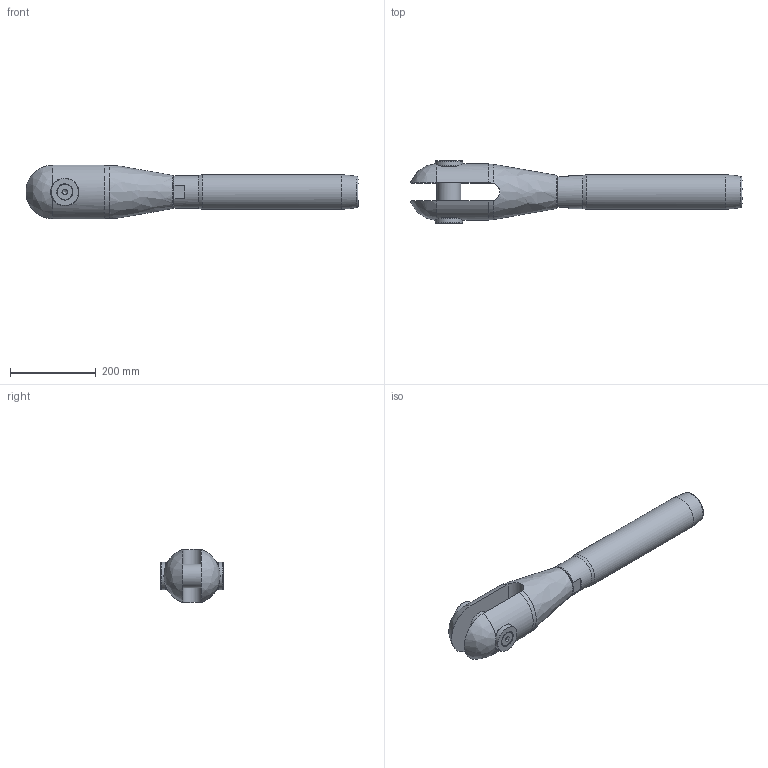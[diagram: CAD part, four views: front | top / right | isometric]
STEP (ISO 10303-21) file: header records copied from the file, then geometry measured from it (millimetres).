
FILE_DESCRIPTION(/* description */ (''),/* implementation_level */ '2;1');
FILE_NAME(/* name */ 'MAC-R 40_1,4418',/* time_stamp */ '2023-05-23T17:52:22+02:00',/* author */ (''),/* organization */ (''),/* preprocessor_version */ 'ST-DEVELOPER v16.5',/* originating_system */ 'Rhino 7.22',/* authorisation */ '');
FILE_SCHEMA (('CONFIG_CONTROL_DESIGN'));
Length unit declared in the file: millimetre
Products named in the file (1): Document
Bounding box: 774.04 x 144.95 x 124.08 mm (x, y, z)
Volume: 4895712.1 mm3; surface area: 384355.1 mm2
Topology: 7 solids, 7 shells, 88 faces, 246 edges, 171 vertices
Faces by surface type: plane 36, bspline 28, cylinder 24
Full cylindrical faces by diameter (mm): 17.294 x2, 20 x2, 21 x2, 35.4 x2, 56 x1, 56.752 x1, 57 x2, 60 x1, 64 x2, 77 x1, 81 x1
Entity records: 3558 total; most frequent: CARTESIAN_POINT 1995, ORIENTED_EDGE 482, EDGE_CURVE 241, VERTEX_POINT 171, EDGE_LOOP 100, B_SPLINE_CURVE_WITH_KNOTS 97, ADVANCED_FACE 88, FACE_OUTER_BOUND 88
